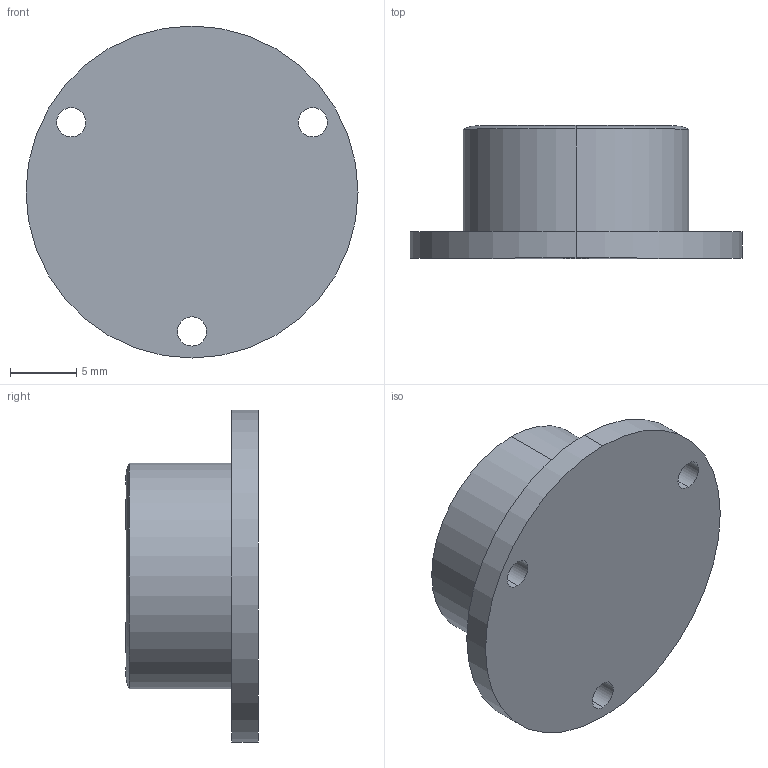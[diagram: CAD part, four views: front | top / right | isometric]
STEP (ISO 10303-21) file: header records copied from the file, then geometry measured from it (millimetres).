
FILE_DESCRIPTION (( 'STEP AP214' ), '1' );
FILE_NAME ('2277-ALS-25-K-30-A.step', '2020-03-26T08:33:04', ( '' ), ( '' ), 'SwSTEP 2.0', 'SolidWorks 2019', '' );
FILE_SCHEMA (( 'AUTOMOTIVE_DESIGN' ));
Length unit declared in the file: millimetre
Products named in the file (1): 2277-ALS-25-K-30-A
Bounding box: 25 x 9.99 x 25 mm (x, y, z)
Volume: 2654.6 mm3; surface area: 1600.5 mm2
Topology: 1 solids, 1 shells, 23 faces, 50 edges, 32 vertices
Faces by surface type: cylinder 16, plane 5, torus 2
Entity records: 714 total; most frequent: DIRECTION 132, CARTESIAN_POINT 106, ORIENTED_EDGE 100, AXIS2_PLACEMENT_3D 58, EDGE_CURVE 50, CIRCLE 34, EDGE_LOOP 32, VERTEX_POINT 32
